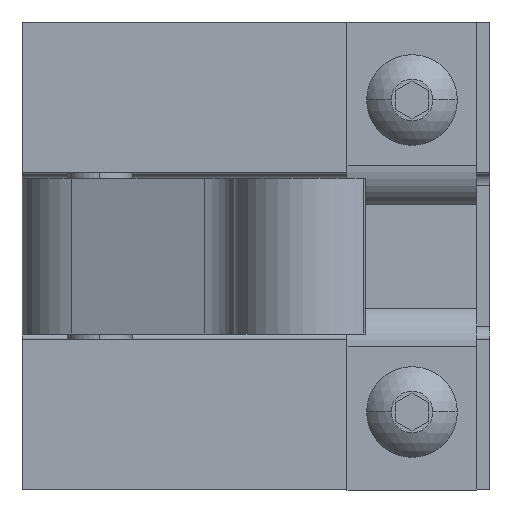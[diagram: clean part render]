
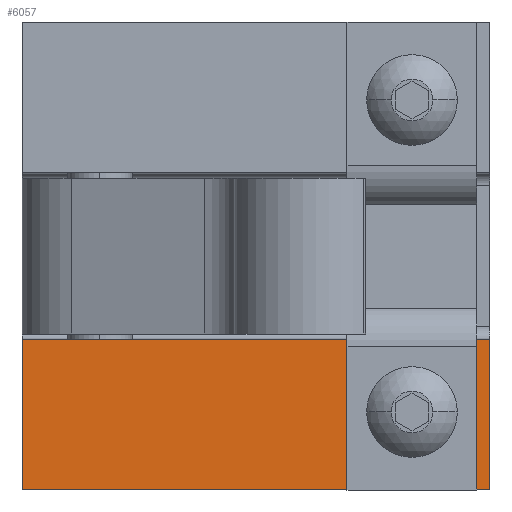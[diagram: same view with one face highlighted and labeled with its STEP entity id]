
A CAD part, left-side view. The second image highlights one B-rep face of the part: STEP entity #6057.
In plain terms, the highlighted planar face has unit normal (-1, 0, 0).
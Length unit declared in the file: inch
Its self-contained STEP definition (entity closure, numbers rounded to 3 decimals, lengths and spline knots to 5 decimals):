
#286 = DIRECTION ( 'NONE',  ( 0., -1., 0. ) ) ;
#287 = VECTOR ( 'NONE', #286, 39.37008 ) ;
#288 = CARTESIAN_POINT ( 'NONE',  ( 2.43951, 3.75404, -1.525 ) ) ;
#363 = LINE ( 'NONE', #288, #287 ) ;
#699 = CARTESIAN_POINT ( 'NONE',  ( 2.43951, 3.75404, -2.25 ) ) ;
#809 = DIRECTION ( 'NONE',  ( 0., 0., 1. ) ) ;
#810 = DIRECTION ( 'NONE',  ( -1., 0., 0. ) ) ;
#811 = CARTESIAN_POINT ( 'NONE',  ( 2.43951, 4.12904, -1.875 ) ) ;
#812 = AXIS2_PLACEMENT_3D ( 'NONE', #811, #810, #809 ) ;
#813 = CIRCLE ( 'NONE', #812, 0.125 ) ;
#833 = FACE_BOUND ( 'NONE', #5800, .T. ) ;
#870 = DIRECTION ( 'NONE',  ( 0., 0., 1. ) ) ;
#871 = DIRECTION ( 'NONE',  ( -1., 0., 0. ) ) ;
#872 = CARTESIAN_POINT ( 'NONE',  ( 2.43951, 3.75404, -2.25 ) ) ;
#873 = AXIS2_PLACEMENT_3D ( 'NONE', #872, #871, #870 ) ;
#880 = CARTESIAN_POINT ( 'NONE',  ( 2.43951, 3.75404, -1.525 ) ) ;
#881 = DIRECTION ( 'NONE',  ( 0., 0., 1. ) ) ;
#882 = VECTOR ( 'NONE', #881, 39.37008 ) ;
#908 = CARTESIAN_POINT ( 'NONE',  ( 2.43951, 3.75404, -2.25 ) ) ;
#909 = LINE ( 'NONE', #908, #882 ) ;
#987 = PLANE ( 'NONE',  #873 ) ;
#988 = FACE_OUTER_BOUND ( 'NONE', #6049, .T. ) ;
#1021 = DIRECTION ( 'NONE',  ( 0., -1., 0. ) ) ;
#1022 = VECTOR ( 'NONE', #1021, 39.37008 ) ;
#1023 = CARTESIAN_POINT ( 'NONE',  ( 2.43951, 3.75404, -2.25 ) ) ;
#1024 = LINE ( 'NONE', #1023, #1022 ) ;
#5800 = EDGE_LOOP ( 'NONE', ( #6125, #6046 ) ) ;
#5872 = EDGE_CURVE ( 'NONE', #18965, #6095, #363, .T. ) ;
#5984 = VERTEX_POINT ( 'NONE', #699 ) ;
#6046 = ORIENTED_EDGE ( 'NONE', *, *, #18896, .F. ) ;
#6049 = EDGE_LOOP ( 'NONE', ( #6056, #6144, #6203, #6091 ) ) ;
#6054 = EDGE_CURVE ( 'NONE', #18981, #19011, #813, .T. ) ;
#6056 = ORIENTED_EDGE ( 'NONE', *, *, #5872, .F. ) ;
#6057 = ADVANCED_FACE ( 'NONE', ( #833, #988 ), #987, .T. ) ;
#6091 = ORIENTED_EDGE ( 'NONE', *, *, #6092, .T. ) ;
#6092 = EDGE_CURVE ( 'NONE', #5984, #6095, #909, .T. ) ;
#6095 = VERTEX_POINT ( 'NONE', #880 ) ;
#6125 = ORIENTED_EDGE ( 'NONE', *, *, #6054, .F. ) ;
#6144 = ORIENTED_EDGE ( 'NONE', *, *, #18713, .F. ) ;
#6203 = ORIENTED_EDGE ( 'NONE', *, *, #6204, .T. ) ;
#6204 = EDGE_CURVE ( 'NONE', #18808, #5984, #1024, .T. ) ;
#14356 = LINE ( 'NONE', #14487, #14485 ) ;
#14484 = DIRECTION ( 'NONE',  ( 0., 0., 1. ) ) ;
#14485 = VECTOR ( 'NONE', #14484, 39.37008 ) ;
#14487 = CARTESIAN_POINT ( 'NONE',  ( 2.43951, 6.00404, -2.25 ) ) ;
#14493 = CARTESIAN_POINT ( 'NONE',  ( 2.43951, 6.00404, -2.25 ) ) ;
#14885 = DIRECTION ( 'NONE',  ( 0., 0., 1. ) ) ;
#14886 = DIRECTION ( 'NONE',  ( -1., 0., 0. ) ) ;
#14887 = CARTESIAN_POINT ( 'NONE',  ( 2.43951, 4.12904, -1.875 ) ) ;
#14888 = AXIS2_PLACEMENT_3D ( 'NONE', #14887, #14886, #14885 ) ;
#14889 = CIRCLE ( 'NONE', #14888, 0.125 ) ;
#15146 = CARTESIAN_POINT ( 'NONE',  ( 2.43951, 6.00404, -1.525 ) ) ;
#15160 = CARTESIAN_POINT ( 'NONE',  ( 2.43951, 4.12904, -2. ) ) ;
#15180 = CARTESIAN_POINT ( 'NONE',  ( 2.43951, 4.12904, -1.75 ) ) ;
#18713 = EDGE_CURVE ( 'NONE', #18808, #18965, #14356, .T. ) ;
#18808 = VERTEX_POINT ( 'NONE', #14493 ) ;
#18896 = EDGE_CURVE ( 'NONE', #19011, #18981, #14889, .T. ) ;
#18965 = VERTEX_POINT ( 'NONE', #15146 ) ;
#18981 = VERTEX_POINT ( 'NONE', #15180 ) ;
#19011 = VERTEX_POINT ( 'NONE', #15160 ) ;
